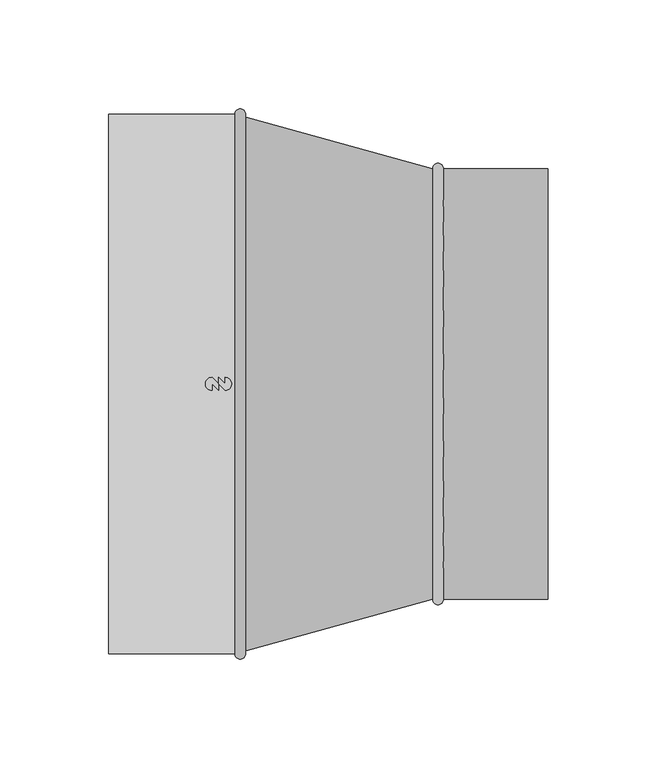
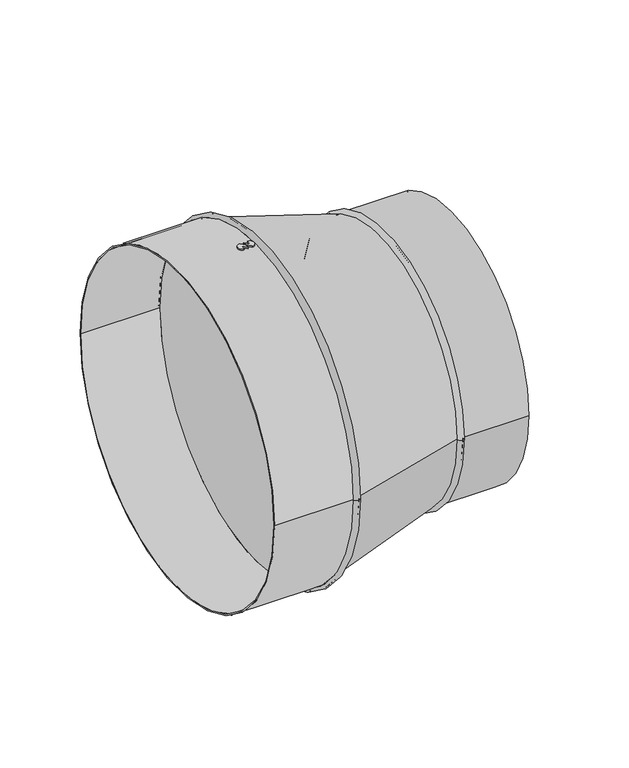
"""IFC4 building model written with IfcOpenShell, lengths in millimetres: duct fitting geometry, NLRS_57_DUF_UN_9mm_dampdichte_rond_verloop_LT_velu : SDNEDI."""

import ifcopenshell
import ifcopenshell.guid

model = None  # the IFC model being written
_history = None  # IfcOwnerHistory: only IFC2X3 demands one
_inside = {}  # id of a spatial element -> (the spatial element, [elements in it])
_under = {}  # id of a project, library or spatial element -> (it, [spatial elements below it])
_declared = {}  # id of a project -> (the project, [libraries it declares])
_typed = {}  # id of a type object -> (the type object, [elements of that type])
_made_of = {}  # id of a material, layer set ... -> (it, [elements and type objects made of it])


def new_model(schema):
    """Start an empty IFC model of exactly this schema.

    Asked for "IFC4X3", IfcOpenShell would pick the latest addendum, in which some entities
    have other attributes; the version numbers below select the first issue.
    IFC2X3 requires an IfcOwnerHistory on every rooted entity: one is made here for all.
    """
    global model, _history
    if schema == "IFC4X3":
        model = ifcopenshell.file(schema_version=(4, 3, 0, 0))
    else:
        model = ifcopenshell.file(schema=schema)
    _inside.clear()
    _under.clear()
    _declared.clear()
    _typed.clear()
    _made_of.clear()
    _history = None
    if model.schema == "IFC2X3":
        org = make("IfcOrganization", Name="unknown")
        user = make(
            "IfcPersonAndOrganization",
            ThePerson=make("IfcPerson", FamilyName="unknown"),
            TheOrganization=org,
        )
        app = make(
            "IfcApplication",
            ApplicationDeveloper=org,
            Version="unknown",
            ApplicationFullName="unknown",
            ApplicationIdentifier="unknown",
        )
        _history = make(
            "IfcOwnerHistory",
            OwningUser=user,
            OwningApplication=app,
            ChangeAction="ADDED",
            CreationDate=0,
        )
    return model


def make(cls, **values):
    """One entity of the class cls with the attributes given. An attribute that is None is left unset."""
    return model.create_entity(
        cls, **{name: value for name, value in values.items() if value is not None}
    )


def rooted(cls, **values):
    """An entity with a GlobalId (a new one), such as an element, a storey or a relation."""
    return make(cls, GlobalId=ifcopenshell.guid.new(), OwnerHistory=_history, **values)


def si_unit(unit_type, name, prefix=None):
    """IfcSIUnit, for example si_unit("LENGTHUNIT", "METRE", prefix="MILLI")."""
    return make("IfcSIUnit", UnitType=unit_type, Prefix=prefix, Name=name)


def assignment(units):
    """IfcUnitAssignment: the units of a project."""
    return None if units is None else make("IfcUnitAssignment", Units=units)


def point(xyz):
    """IfcCartesianPoint."""
    return None if xyz is None else make("IfcCartesianPoint", Coordinates=xyz)


def direction(xyz):
    """IfcDirection."""
    return None if xyz is None else make("IfcDirection", DirectionRatios=xyz)


def frame(location, z_axis=None, x_axis=None):
    """IfcAxis2Placement3D, a coordinate frame: its origin and axes. An axis left out is left unset."""
    return make(
        "IfcAxis2Placement3D",
        Location=point(location),
        Axis=direction(z_axis),
        RefDirection=direction(x_axis),
    )


def frame_2d(location, x_axis=None):
    """IfcAxis2Placement2D, a coordinate frame in the plane: its origin and x axis."""
    return make(
        "IfcAxis2Placement2D", Location=point(location), RefDirection=direction(x_axis)
    )


def origin():
    """The frame at (0, 0, 0) with its axes left unset."""
    return frame((0.0, 0.0, 0.0))


def place(relative_to, where):
    """IfcLocalPlacement: puts the frame where relative to a parent placement (None: the world)."""
    return make(
        "IfcLocalPlacement", PlacementRelTo=relative_to, RelativePlacement=where
    )


def context(
    kind, dimensions, precision=None, world=None, true_north=None, identifier=None
):
    """IfcGeometricRepresentationContext, for example the 3D "Model" context."""
    return make(
        "IfcGeometricRepresentationContext",
        ContextIdentifier=identifier,
        ContextType=kind,
        CoordinateSpaceDimension=dimensions,
        Precision=precision,
        WorldCoordinateSystem=world,
        TrueNorth=true_north,
    )


def project(units=None, contexts=None):
    """IfcProject with its units and contexts."""
    return rooted(
        "IfcProject",
        Name="project",
        RepresentationContexts=contexts,
        UnitsInContext=assignment(units),
    )


def spatial(cls, under=None, at=None, **own):
    """A site, building, storey or space (cls), placed at a placement, below another one or the project."""
    s = rooted(cls, ObjectPlacement=at, **own)
    if under is not None:
        _under.setdefault(under.id(), (under, []))[1].append(s)
    return s


def polyline(points):
    """IfcPolyline through the points."""
    return make("IfcPolyline", Points=[point(p) for p in points])


def circle_curve(where, radius):
    """IfcCircle in the frame where."""
    return make("IfcCircle", Position=where, Radius=radius)


def ellipse_curve(where, semi_axis1, semi_axis2):
    """IfcEllipse in the frame where."""
    return make(
        "IfcEllipse", Position=where, SemiAxis1=semi_axis1, SemiAxis2=semi_axis2
    )


def trimmed(basis, trim1, trim2, sense, master):
    """IfcTrimmedCurve: the piece of a basis curve between two trims."""
    return make(
        "IfcTrimmedCurve",
        BasisCurve=basis,
        Trim1=trim1,
        Trim2=trim2,
        SenseAgreement=sense,
        MasterRepresentation=master,
    )


def segment(curve, same_sense, transition):
    """IfcCompositeCurveSegment."""
    return make(
        "IfcCompositeCurveSegment",
        Transition=transition,
        SameSense=same_sense,
        ParentCurve=curve,
    )


def composite_curve(segments, self_intersect=None):
    """IfcCompositeCurve: segments joined end to end."""
    return make("IfcCompositeCurve", Segments=segments, SelfIntersect=self_intersect)


def outline(outer, holes=None, kind="AREA"):
    """IfcArbitraryClosedProfileDef: a profile drawn as a closed curve; with holes, ...WithVoids."""
    if holes is None:
        return make("IfcArbitraryClosedProfileDef", ProfileType=kind, OuterCurve=outer)
    return make(
        "IfcArbitraryProfileDefWithVoids",
        ProfileType=kind,
        OuterCurve=outer,
        InnerCurves=holes,
    )


def extrude(swept, where, along, depth):
    """IfcExtrudedAreaSolid: the profile swept, set in the frame where, extruded along a direction by depth."""
    return make(
        "IfcExtrudedAreaSolid",
        SweptArea=swept,
        Position=where,
        ExtrudedDirection=direction(along),
        Depth=depth,
    )


def shape(context_of_items, identifier, shape_type, items):
    """IfcShapeRepresentation: the items that make up one representation, for example the "Body"."""
    return make(
        "IfcShapeRepresentation",
        ContextOfItems=context_of_items,
        RepresentationIdentifier=identifier,
        RepresentationType=shape_type,
        Items=items,
    )


def source(mapping_origin, context_of_items, identifier, shape_type, items):
    """IfcRepresentationMap: a shape defined once, which mapped items show again and again."""
    return make(
        "IfcRepresentationMap",
        MappingOrigin=mapping_origin,
        MappedRepresentation=shape(context_of_items, identifier, shape_type, items),
    )


def transform(
    local_origin,
    x_axis=None,
    y_axis=None,
    z_axis=None,
    scale=None,
    scale2=None,
    scale3=None,
    uniform=True,
):
    """IfcCartesianTransformationOperator3D, or its non-uniform kind. x_axis, y_axis, z_axis: its Axis1, 2, 3."""
    if uniform:
        return make(
            "IfcCartesianTransformationOperator3D",
            Axis1=direction(x_axis),
            Axis2=direction(y_axis),
            LocalOrigin=point(local_origin),
            Scale=scale,
            Axis3=direction(z_axis),
        )
    return make(
        "IfcCartesianTransformationOperator3DnonUniform",
        Axis1=direction(x_axis),
        Axis2=direction(y_axis),
        LocalOrigin=point(local_origin),
        Scale=scale,
        Axis3=direction(z_axis),
        Scale2=scale2,
        Scale3=scale3,
    )


def mapped(mapping_source, mapping_target):
    """IfcMappedItem: shows the shape of a source again, moved by a transform."""
    return make(
        "IfcMappedItem", MappingSource=mapping_source, MappingTarget=mapping_target
    )


def made_of(thing, what):
    """Note that an element or type object is made of a material, layer set ...; save() writes the relation."""
    if what is not None:
        _made_of.setdefault(what.id(), (what, []))[1].append(thing)
    return thing


def element(
    cls,
    number,
    at=None,
    inside=None,
    cuts=None,
    type_object=None,
    material=None,
    context=None,
    identifier="Body",
    shape_type=None,
    held_by="IfcProductDefinitionShape",
    body=None,
    shapes=None,
    **own,
):
    """One element of the class cls, such as IfcWall. Its Tag is "e" and its number.

    at: its placement. inside: the storey or other place that contains it. cuts: it is an
    opening in that element (IfcRelVoidsElement). A single representation is given by context,
    identifier, shape_type and body (its items); several are given by shapes. held_by: the class
    of the entity that holds the representations. save() writes the other relations.
    """
    e = rooted(cls, Tag="e%d" % number, ObjectPlacement=at, **own)
    if body is not None:
        shapes = [shape(context, identifier, shape_type, body)]
    if shapes is not None:
        e.Representation = make(held_by, Representations=shapes)
    if inside is not None:
        _inside.setdefault(inside.id(), (inside, []))[1].append(e)
    if cuts is not None:
        rooted(
            "IfcRelVoidsElement", RelatingBuildingElement=cuts, RelatedOpeningElement=e
        )
    if type_object is not None:
        _typed.setdefault(type_object.id(), (type_object, []))[1].append(e)
    return made_of(e, material)


def aggregate(whole, parts):
    """IfcRelAggregates: a whole, such as a stair, and the parts it consists of."""
    return rooted("IfcRelAggregates", RelatingObject=whole, RelatedObjects=parts)


def save(model, path):
    """Write the relations noted so far, then the file.

    IfcRelAggregates (storeys below a building ...), IfcRelContainedInSpatialStructure (elements
    in a storey), IfcRelDefinesByType, IfcRelAssociatesMaterial and IfcRelDeclares: one each for
    every whole, place, type object, material and project.
    """
    for whole, parts in _under.values():
        aggregate(whole, parts)
    for where, things in _inside.values():
        rooted(
            "IfcRelContainedInSpatialStructure",
            RelatedElements=things,
            RelatingStructure=where,
        )
    for kind, things in _typed.values():
        rooted("IfcRelDefinesByType", RelatedObjects=things, RelatingType=kind)
    for what, things in _made_of.values():
        rooted("IfcRelAssociatesMaterial", RelatedObjects=things, RelatingMaterial=what)
    for by, libraries in _declared.values():
        rooted("IfcRelDeclares", RelatingContext=by, RelatedDefinitions=libraries)
    model.write(path)


def plane_surface(at):
    """IfcPlane: the flat surface through the origin of the frame at, square to its z axis."""
    return make("IfcPlane", Position=at)


def cylinder_surface(at, radius):
    """IfcCylindricalSurface: all points at the distance radius from the z axis of the frame at."""
    return make("IfcCylindricalSurface", Position=at, Radius=radius)


def revolved_surface(curve, axis_point, axis_direction):
    """IfcSurfaceOfRevolution: the curve turned about the line through axis_point along axis_direction."""
    return make(
        "IfcSurfaceOfRevolution",
        SweptCurve=make("IfcArbitraryOpenProfileDef", ProfileType="CURVE", Curve=curve),
        AxisPosition=make("IfcAxis1Placement", Location=point(axis_point), Axis=direction(axis_direction)),
    )


def advanced_brep(points, edges, surfaces, faces):
    """IfcAdvancedBrep: a solid bounded by faces that lie on surfaces and meet in shared edges.

    An edge is (start, end): straight between two places in points (the first is 0);
    or (start, end, curve); or (start, end, curve, False) where it runs against its curve.
    A face is (place in surfaces, loops), or (place, loops, False) where it looks against
    its surface's normal. A loop lists edges by number (the first is 1), with a minus sign
    where the edge is run from its end to its start. The first loop is the outer one.
    """
    corners = [point(p) for p in points]
    vertices = [make("IfcVertexPoint", VertexGeometry=c) for c in corners]
    made = []
    for start, end, *more in edges:
        made.append(
            make(
                "IfcEdgeCurve",
                EdgeStart=vertices[start],
                EdgeEnd=vertices[end],
                EdgeGeometry=more[0] if more else make("IfcPolyline", Points=[corners[start], corners[end]]),
                SameSense=more[1] if len(more) > 1 else True,
            )
        )
    hull = []
    for where, loops, *sense in faces:
        bounds = []
        for j, loop in enumerate(loops):
            ring = [make("IfcOrientedEdge", EdgeElement=made[abs(k) - 1], Orientation=k > 0) for k in loop]
            bounds.append(
                make(
                    "IfcFaceOuterBound" if j == 0 else "IfcFaceBound",
                    Bound=make("IfcEdgeLoop", EdgeList=ring),
                    Orientation=True,
                )
            )
        hull.append(make("IfcAdvancedFace", Bounds=bounds, FaceSurface=surfaces[where], SameSense=sense[0] if sense else True))
    return make("IfcAdvancedBrep", Outer=make("IfcClosedShell", CfsFaces=hull))


def duct_fitting_d8102a54(model_context):
    return source(origin(), model_context, "Body", "SolidModel", [
        extrude(outline(composite_curve([segment(trimmed(circle_curve(frame_2d((-50.0, 0.0)), 3.0), [point((-50.0, 3.0))], [point((-50.0, -3.0))], False, "CARTESIAN"), True, "CONTINUOUS"), segment(polyline([(-50.0, -3.0), (-53.0, 0.0), (-53.0, 3.0), (-50.0, 0.0), (-50.0, 3.0)]), True, "CONTINUOUS")], self_intersect=False)), frame((0.0, 0.0, -126.0), z_axis=(0.0, 0.0, 1.0), x_axis=(1.0, 0.0, 0.0)), (0.0, 0.0, 1.0), 1.0),
        extrude(outline(composite_curve([segment(trimmed(circle_curve(frame_2d((-56.0, 0.0)), 3.0), [point((-56.0, -3.0))], [point((-56.0, 3.0))], False, "CARTESIAN"), True, "CONTINUOUS"), segment(polyline([(-56.0, 3.0), (-53.0, 0.0), (-53.0, -3.0), (-56.0, 0.0), (-56.0, -3.0)]), True, "CONTINUOUS")], self_intersect=False)), frame((0.0, 0.0, -126.0), z_axis=(0.0, 0.0, 1.0), x_axis=(1.0, 0.0, 0.0)), (0.0, 0.0, 1.0), 1.0),
        extrude(outline(composite_curve([segment(trimmed(circle_curve(frame_2d((-50.0, 0.0)), 3.0), [point((-50.0, 3.0))], [point((-50.0, -3.0))], False, "CARTESIAN"), True, "CONTINUOUS"), segment(polyline([(-50.0, -3.0), (-53.0, 0.0), (-53.0, 3.0), (-50.0, 0.0), (-50.0, 3.0)]), True, "CONTINUOUS")], self_intersect=False)), frame((0.0, 0.0, 125.0), z_axis=(0.0, 0.0, 1.0), x_axis=(1.0, 0.0, 0.0)), (0.0, 0.0, 1.0), 1.0),
        extrude(outline(composite_curve([segment(trimmed(circle_curve(frame_2d((-56.0, 0.0)), 3.0), [point((-56.0, -3.0))], [point((-56.0, 3.0))], False, "CARTESIAN"), True, "CONTINUOUS"), segment(polyline([(-56.0, 3.0), (-53.0, 0.0), (-53.0, -3.0), (-56.0, 0.0), (-56.0, -3.0)]), True, "CONTINUOUS")], self_intersect=False)), frame((0.0, 0.0, 125.0), z_axis=(0.0, 0.0, 1.0), x_axis=(1.0, 0.0, 0.0)), (0.0, 0.0, 1.0), 1.0),
        advanced_brep(
        [(-103.5, 123.0, 0.0), (-103.5, -123.0, 0.0), (-45.5, -123.0, 0.0), (-45.5, 123.0, 0.0), (-45.5, 124.0, 0.0), (-45.5, -124.0, 0.0), (-103.5, -124.0, 0.0), (-103.5, 124.0, 0.0), (-40.5, 124.0, 0.0), (-40.5, -124.0, 0.0), (-41.5, 123.0, 0.0), (-41.5, -123.0, 0.0), (-40.5, -123.0, 0.0), (-40.5, 123.0, 0.0), (-44.5, 124.0, 0.0), (-44.5, -124.0, 0.0), (-41.5, -124.0, 0.0), (-41.5, 124.0, 0.0), (-44.5, 123.7252747, 0.0), (-44.5, -123.7252747, 0.0), (45.5, -98.0, 0.0), (45.5, 98.0, 0.0), (45.5, -99.0, 0.0), (-41.5252639, -122.9080395, 0.0), (-41.5252639, 122.9080395, 0.0), (45.5, 99.0, 0.0), (98.5, -98.0, 0.0), (98.5, 98.0, 0.0), (49.5, 98.0, 0.0), (49.5, -98.0, 0.0), (50.5, -99.0, 0.0), (50.5, 99.0, 0.0), (98.5, 99.0, 0.0), (98.5, -99.0, 0.0), (46.5, -98.0, 0.0), (46.5, 98.0, 0.0), (49.5, -99.0, 0.0), (49.5, 99.0, 0.0), (46.5, 99.0, 0.0), (46.5, -99.0, 0.0)],
        [
            (0, 1, circle_curve(frame((-103.5, 0.0, 0.0), z_axis=(-1.0, 0.0, 0.0), x_axis=(0.0, -1.0, 0.0)), 123.0)),
            (1, 2),
            (2, 3, circle_curve(frame((-45.5, 0.0, 0.0), z_axis=(1.0, 0.0, 0.0), x_axis=(0.0, -1.0, 0.0)), 123.0)),
            (3, 0),
            (4, 5, circle_curve(frame((-45.5, 0.0, 0.0), z_axis=(-1.0, 0.0, 0.0), x_axis=(0.0, -1.0, 0.0)), 124.0)),
            (5, 6),
            (6, 7, circle_curve(frame((-103.5, 0.0, 0.0), z_axis=(1.0, 0.0, 0.0), x_axis=(0.0, -1.0, 0.0)), 124.0)),
            (7, 4),
            (4, 8, circle_curve(frame((-43.0, 124.0, 0.0), z_axis=(0.0, 0.0, -1.0), x_axis=(1.0, 0.0, 0.0)), 2.5)),
            (8, 9, circle_curve(frame((-40.5, 0.0, 0.0), z_axis=(-1.0, 0.0, 0.0), x_axis=(0.0, -1.0, 0.0)), 124.0)),
            (9, 5, circle_curve(frame((-43.0, -124.0, 0.0), z_axis=(0.0, 0.0, -1.0), x_axis=(1.0, 0.0, 0.0)), 2.5)),
            (10, 11, circle_curve(frame((-41.5, 0.0, 0.0), z_axis=(-1.0, 0.0, 0.0), x_axis=(0.0, -1.0, 0.0)), 123.0)),
            (11, 12),
            (12, 13, circle_curve(frame((-40.5, 0.0, 0.0), z_axis=(1.0, 0.0, 0.0), x_axis=(0.0, -1.0, 0.0)), 123.0)),
            (13, 10),
            (14, 15, circle_curve(frame((-44.5, 0.0, 0.0), z_axis=(-1.0, 0.0, 0.0), x_axis=(0.0, -1.0, 0.0)), 124.0)),
            (15, 16, circle_curve(frame((-43.0, -124.0, 0.0), z_axis=(0.0, 0.0, 1.0), x_axis=(1.0, 0.0, 0.0)), 1.5)),
            (16, 17, circle_curve(frame((-41.5, 0.0, 0.0), z_axis=(1.0, 0.0, 0.0), x_axis=(0.0, -1.0, 0.0)), 124.0)),
            (17, 14, circle_curve(frame((-43.0, 124.0, 0.0), z_axis=(0.0, 0.0, 1.0), x_axis=(1.0, 0.0, 0.0)), 1.5)),
            (1, 0, circle_curve(frame((-103.5, 0.0, 0.0), z_axis=(-1.0, 0.0, 0.0), x_axis=(0.0, 1.0, 0.0)), 123.0)),
            (3, 2, circle_curve(frame((-45.5, 0.0, 0.0), z_axis=(1.0, 0.0, 0.0), x_axis=(0.0, 1.0, 0.0)), 123.0)),
            (6, 7, circle_curve(frame((-103.5, 0.0, 0.0), z_axis=(-1.0, 0.0, 0.0), x_axis=(0.0, 1.0, 0.0)), 124.0)),
            (5, 4, circle_curve(frame((-45.5, 0.0, 0.0), z_axis=(-1.0, 0.0, 0.0), x_axis=(0.0, 1.0, 0.0)), 124.0)),
            (9, 8, circle_curve(frame((-40.5, 0.0, 0.0), z_axis=(-1.0, 0.0, 0.0), x_axis=(0.0, 1.0, 0.0)), 124.0)),
            (12, 13, circle_curve(frame((-40.5, 0.0, 0.0), z_axis=(-1.0, 0.0, 0.0), x_axis=(0.0, 1.0, 0.0)), 123.0)),
            (11, 10, circle_curve(frame((-41.5, 0.0, 0.0), z_axis=(-1.0, 0.0, 0.0), x_axis=(0.0, 1.0, 0.0)), 123.0)),
            (16, 17, circle_curve(frame((-41.5, 0.0, 0.0), z_axis=(-1.0, 0.0, 0.0), x_axis=(0.0, 1.0, 0.0)), 124.0)),
            (15, 14, circle_curve(frame((-44.5, 0.0, 0.0), z_axis=(-1.0, 0.0, 0.0), x_axis=(0.0, 1.0, 0.0)), 124.0)),
            (18, 19, circle_curve(frame((-44.5, 0.0, 0.0), z_axis=(-1.0, 0.0, 0.0), x_axis=(0.0, -1.0, 0.0)), 123.7252747)),
            (19, 18, circle_curve(frame((-44.5, 0.0, 0.0), z_axis=(-1.0, 0.0, 0.0), x_axis=(0.0, 1.0, 0.0)), 123.7252747)),
            (20, 21, circle_curve(frame((45.5, 0.0, 0.0), z_axis=(1.0, 0.0, 0.0), x_axis=(0.0, 1.0, 0.0)), 98.0)),
            (21, 20, circle_curve(frame((45.5, 0.0, 0.0), z_axis=(1.0, 0.0, 0.0), x_axis=(0.0, -1.0, 0.0)), 98.0)),
            (22, 23),
            (23, 19),
            (18, 24),
            (24, 25),
            (25, 22, circle_curve(frame((45.5, 0.0, 0.0), z_axis=(-1.0, 0.0, 0.0), x_axis=(0.0, -1.0, 0.0)), 99.0)),
            (22, 25, circle_curve(frame((45.5, 0.0, 0.0), z_axis=(-1.0, 0.0, 0.0), x_axis=(0.0, 1.0, 0.0)), 99.0)),
            (26, 27, circle_curve(frame((98.5, 0.0, 0.0), z_axis=(1.0, 0.0, 0.0), x_axis=(0.0, 1.0, 0.0)), 98.0)),
            (27, 28),
            (28, 29, circle_curve(frame((49.5, 0.0, 0.0), z_axis=(-1.0, 0.0, 0.0), x_axis=(0.0, 1.0, 0.0)), 98.0)),
            (29, 26),
            (30, 31, circle_curve(frame((50.5, 0.0, 0.0), z_axis=(1.0, 0.0, 0.0), x_axis=(0.0, 1.0, 0.0)), 99.0)),
            (31, 32),
            (32, 33, circle_curve(frame((98.5, 0.0, 0.0), z_axis=(-1.0, 0.0, 0.0), x_axis=(0.0, 1.0, 0.0)), 99.0)),
            (33, 30),
            (30, 22, circle_curve(frame((48.0, -99.0, 0.0), z_axis=(0.0, 0.0, -1.0), x_axis=(-1.0, 0.0, 0.0)), 2.5)),
            (25, 31, circle_curve(frame((48.0, 99.0, 0.0), z_axis=(0.0, 0.0, -1.0), x_axis=(-1.0, 0.0, 0.0)), 2.5)),
            (34, 35, circle_curve(frame((46.5, 0.0, 0.0), z_axis=(1.0, 0.0, 0.0), x_axis=(0.0, 1.0, 0.0)), 98.0)),
            (35, 21),
            (20, 34),
            (36, 37, circle_curve(frame((49.5, 0.0, 0.0), z_axis=(1.0, 0.0, 0.0), x_axis=(0.0, 1.0, 0.0)), 99.0)),
            (37, 38, circle_curve(frame((48.0, 99.0, 0.0), z_axis=(0.0, 0.0, 1.0), x_axis=(-1.0, 0.0, 0.0)), 1.5)),
            (38, 39, circle_curve(frame((46.5, 0.0, 0.0), z_axis=(-1.0, 0.0, 0.0), x_axis=(0.0, 1.0, 0.0)), 99.0)),
            (39, 36, circle_curve(frame((48.0, -99.0, 0.0), z_axis=(0.0, 0.0, 1.0), x_axis=(-1.0, 0.0, 0.0)), 1.5)),
            (27, 26, circle_curve(frame((98.5, 0.0, 0.0), z_axis=(1.0, 0.0, 0.0), x_axis=(0.0, -1.0, 0.0)), 98.0)),
            (29, 28, circle_curve(frame((49.5, 0.0, 0.0), z_axis=(-1.0, 0.0, 0.0), x_axis=(0.0, -1.0, 0.0)), 98.0)),
            (32, 33, circle_curve(frame((98.5, 0.0, 0.0), z_axis=(1.0, 0.0, 0.0), x_axis=(0.0, -1.0, 0.0)), 99.0)),
            (31, 30, circle_curve(frame((50.5, 0.0, 0.0), z_axis=(1.0, 0.0, 0.0), x_axis=(0.0, -1.0, 0.0)), 99.0)),
            (35, 34, circle_curve(frame((46.5, 0.0, 0.0), z_axis=(1.0, 0.0, 0.0), x_axis=(0.0, -1.0, 0.0)), 98.0)),
            (38, 39, circle_curve(frame((46.5, 0.0, 0.0), z_axis=(1.0, 0.0, 0.0), x_axis=(0.0, -1.0, 0.0)), 99.0)),
            (37, 36, circle_curve(frame((49.5, 0.0, 0.0), z_axis=(1.0, 0.0, 0.0), x_axis=(0.0, -1.0, 0.0)), 99.0)),
        ],
        [
            revolved_surface(polyline([(-45.5, -123.0, 0.0), (-103.5, -123.0, 0.0)]), (-45.5, 0.0, 0.0), (1.0, 0.0, 0.0)),
            cylinder_surface(frame((-45.5, 0.0, 0.0), z_axis=(1.0, 0.0, 0.0), x_axis=(0.0, -1.0, 0.0)), 124.0),
            revolved_surface(trimmed(ellipse_curve(frame((-43.0, -124.0, 0.0), z_axis=(0.0, 0.0, 1.0), x_axis=(1.0, 0.0, 0.0)), 2.5, 2.5), [point((-45.5, -124.0, 0.0))], [point((-40.5, -124.0, 0.0))], True, "CARTESIAN"), (-45.5, 0.0, 0.0), (1.0, 0.0, 0.0)),
            revolved_surface(polyline([(-40.5, -123.0, 0.0), (-41.5, -123.0, 0.0)]), (-45.5, 0.0, 0.0), (1.0, 0.0, 0.0)),
            revolved_surface(trimmed(ellipse_curve(frame((-43.0, -124.0, 0.0), z_axis=(0.0, 0.0, -1.0), x_axis=(1.0, 0.0, 0.0)), 1.5, 1.5), [point((-41.5, -124.0, 0.0))], [point((-44.5, -124.0, 0.0))], True, "CARTESIAN"), (-45.5, 0.0, 0.0), (1.0, 0.0, 0.0)),
            revolved_surface(polyline([(-45.5, 123.0, 0.0), (-103.5, 123.0, 0.0)]), (-45.5, 0.0, 0.0), (1.0, 0.0, 0.0)),
            plane_surface(frame((-103.5, 0.0, 0.0), z_axis=(-1.0, 0.0, 0.0), x_axis=(0.0, 1.0, 0.0))),
            cylinder_surface(frame((-45.5, 0.0, 0.0), z_axis=(1.0, 0.0, 0.0), x_axis=(0.0, 1.0, 0.0)), 124.0),
            revolved_surface(trimmed(ellipse_curve(frame((-43.0, 124.0, 0.0), z_axis=(0.0, 0.0, -1.0), x_axis=(1.0, 0.0, 0.0)), 2.5, 2.5), [point((-45.5, 124.0, 0.0))], [point((-40.5, 124.0, 0.0))], True, "CARTESIAN"), (-45.5, 0.0, 0.0), (1.0, 0.0, 0.0)),
            plane_surface(frame((-40.5, 0.0, 0.0), z_axis=(1.0, 0.0, 0.0), x_axis=(0.0, 1.0, 0.0))),
            revolved_surface(polyline([(-40.5, 123.0, 0.0), (-41.5, 123.0, 0.0)]), (-45.5, 0.0, 0.0), (1.0, 0.0, 0.0)),
            plane_surface(frame((-41.5, 0.0, 0.0), z_axis=(-1.0, 0.0, 0.0), x_axis=(0.0, 1.0, 0.0))),
            revolved_surface(trimmed(ellipse_curve(frame((-43.0, 124.0, 0.0), z_axis=(0.0, 0.0, 1.0), x_axis=(1.0, 0.0, 0.0)), 1.5, 1.5), [point((-41.5, 124.0, 0.0))], [point((-44.5, 124.0, 0.0))], True, "CARTESIAN"), (-45.5, 0.0, 0.0), (1.0, 0.0, 0.0)),
            plane_surface(frame((-44.5, 0.0, 0.0), z_axis=(1.0, 0.0, 0.0), x_axis=(0.0, 1.0, 0.0))),
            plane_surface(frame((45.5, 0.0, 0.0), z_axis=(1.0, 0.0, 0.0), x_axis=(0.0, 0.0, -1.0))),
            plane_surface(frame((-45.5, 0.0, 0.0), z_axis=(-1.0, 0.0, 0.0), x_axis=(0.0, 0.0, -1.0))),
            revolved_surface(polyline([(45.5, -98.99999997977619, 0.0), (-44.5, -123.7252747, 0.0)]), (405.86, 0.0, 0.0), (-1.0, 0.0, 0.0)),
            revolved_surface(polyline([(45.5, 98.99999997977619, 0.0), (-44.5, 123.7252747, 0.0)]), (405.86, 0.0, 0.0), (-1.0, 0.0, 0.0)),
            revolved_surface(polyline([(49.5, 98.0, 0.0), (98.5, 98.0, 0.0)]), (45.5, 0.0, 0.0), (-1.0, 0.0, 0.0)),
            cylinder_surface(frame((45.5, 0.0, 0.0), z_axis=(-1.0, 0.0, 0.0), x_axis=(0.0, 1.0, 0.0)), 99.0),
            revolved_surface(trimmed(ellipse_curve(frame((48.0, 99.0, 0.0), z_axis=(0.0, 0.0, 1.0), x_axis=(-1.0, 0.0, 0.0)), 2.5, 2.5), [point((50.5, 99.0, 0.0))], [point((45.5, 99.0, 0.0))], True, "CARTESIAN"), (45.5, 0.0, 0.0), (-1.0, 0.0, 0.0)),
            revolved_surface(polyline([(45.5, 98.0, 0.0), (46.5, 98.0, 0.0)]), (45.5, 0.0, 0.0), (-1.0, 0.0, 0.0)),
            revolved_surface(trimmed(ellipse_curve(frame((48.0, 99.0, 0.0), z_axis=(0.0, 0.0, -1.0), x_axis=(-1.0, 0.0, 0.0)), 1.5, 1.5), [point((46.5, 99.0, 0.0))], [point((49.5, 99.0, 0.0))], True, "CARTESIAN"), (45.5, 0.0, 0.0), (-1.0, 0.0, 0.0)),
            revolved_surface(polyline([(49.5, -98.0, 0.0), (98.5, -98.0, 0.0)]), (45.5, 0.0, 0.0), (-1.0, 0.0, 0.0)),
            plane_surface(frame((98.5, 0.0, 0.0), z_axis=(1.0, 0.0, 0.0), x_axis=(0.0, -1.0, 0.0))),
            cylinder_surface(frame((45.5, 0.0, 0.0), z_axis=(-1.0, 0.0, 0.0), x_axis=(0.0, -1.0, 0.0)), 99.0),
            revolved_surface(trimmed(ellipse_curve(frame((48.0, -99.0, 0.0), z_axis=(0.0, 0.0, -1.0), x_axis=(-1.0, 0.0, 0.0)), 2.5, 2.5), [point((50.5, -99.0, 0.0))], [point((45.5, -99.0, 0.0))], True, "CARTESIAN"), (45.5, 0.0, 0.0), (-1.0, 0.0, 0.0)),
            revolved_surface(polyline([(45.5, -98.0, 0.0), (46.5, -98.0, 0.0)]), (45.5, 0.0, 0.0), (-1.0, 0.0, 0.0)),
            plane_surface(frame((46.5, 0.0, 0.0), z_axis=(1.0, 0.0, 0.0), x_axis=(0.0, -1.0, 0.0))),
            revolved_surface(trimmed(ellipse_curve(frame((48.0, -99.0, 0.0), z_axis=(0.0, 0.0, 1.0), x_axis=(-1.0, 0.0, 0.0)), 1.5, 1.5), [point((46.5, -99.0, 0.0))], [point((49.5, -99.0, 0.0))], True, "CARTESIAN"), (45.5, 0.0, 0.0), (-1.0, 0.0, 0.0)),
            plane_surface(frame((49.5, 0.0, 0.0), z_axis=(-1.0, 0.0, 0.0), x_axis=(0.0, -1.0, 0.0))),
        ],
        [
            (0, [[1, 2, 3, 4]]),
            (1, [[5, 6, 7, 8]]),
            (2, [[-5, 9, 10, 11]]),
            (3, [[12, 13, 14, 15]]),
            (4, [[16, 17, 18, 19]]),
            (5, [[20, -4, 21, -2]]),
            (6, [[-7, 22], [-1, -20]]),
            (7, [[-6, 23, -8, -22]]),
            (8, [[-11, 24, -9, -23]]),
            (9, [[-10, -24], [-14, 25]]),
            (10, [[-13, 26, -15, -25]]),
            (11, [[-18, 27], [-12, -26]]),
            (12, [[-17, 28, -19, -27]]),
            (13, [[-16, -28], [29, 30]]),
            (14, [[31, 32]]),
            (15, [[-3, -21]]),
            (16, [[33, 34, -29, 35, 36, 37]]),
            (17, [[-33, 38, -36, -35, -30, -34]]),
            (18, [[39, 40, 41, 42]]),
            (19, [[43, 44, 45, 46]]),
            (20, [[-43, 47, -37, 48]]),
            (21, [[49, 50, -31, 51]]),
            (22, [[52, 53, 54, 55]]),
            (23, [[-40, 56, -42, 57]]),
            (24, [[-45, 58], [-39, -56]]),
            (25, [[-44, 59, -46, -58]]),
            (26, [[-48, -38, -47, -59]]),
            (27, [[-50, 60, -51, -32]]),
            (28, [[-54, 61], [-49, -60]]),
            (29, [[-53, 62, -55, -61]]),
            (30, [[-52, -62], [-41, -57]]),
        ],
    ),
    ])


if __name__ == "__main__":
    model = new_model("IFC4")
    model_context = context("Model", 3, world=origin())
    ifc_project = project(units=[si_unit("LENGTHUNIT", "METRE", prefix="MILLI")], contexts=[model_context])
    site = spatial("IfcSite", under=ifc_project)
    building = spatial("IfcBuilding", under=site)
    placement = place(None, origin())
    duct_fitting_shape = duct_fitting_d8102a54(model_context)
    element("IfcDuctFitting", 1, ObjectType="NLRS_57_DUF_UN_9mm_dampdichte_rond_verloop_LT_velu : SDNEDI", at=placement, inside=building, context=model_context, shape_type="MappedRepresentation", body=[
        mapped(duct_fitting_shape, transform((0.0, 0.0, 0.0), x_axis=(1.0, 0.0, 0.0), y_axis=(0.0, 1.0, 0.0), z_axis=(0.0, 0.0, 1.0))),
    ])
    save(model, "model.ifc")
